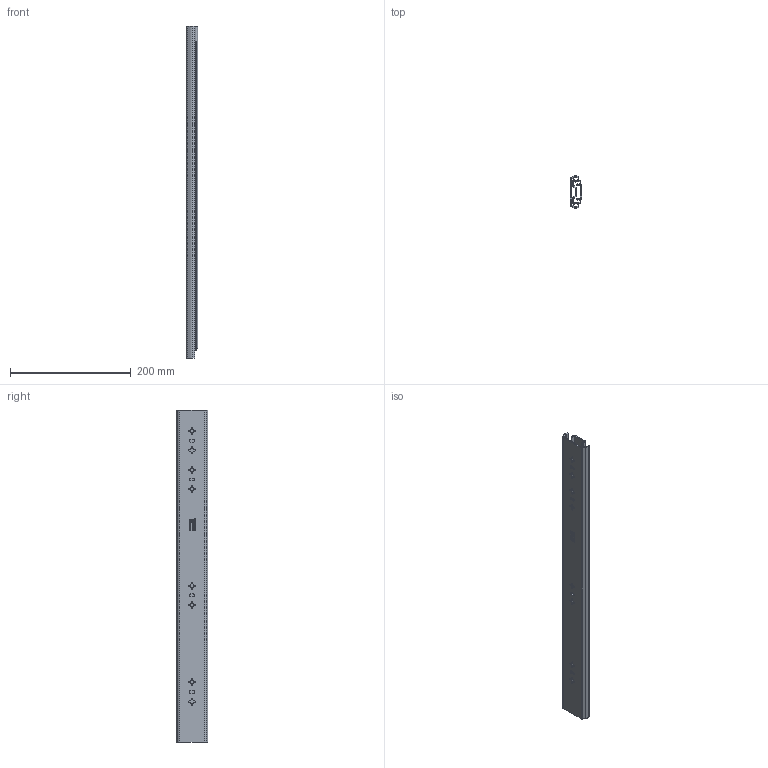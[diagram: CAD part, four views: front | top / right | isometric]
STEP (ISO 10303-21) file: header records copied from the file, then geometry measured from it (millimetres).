
FILE_DESCRIPTION (( 'STEP AP214' ), '1' );
FILE_NAME ('DSCHMD550MM-CLOSED.STEP', '2018-11-26T13:44:43', ( '' ), ( '' ), 'SwSTEP 2.0', 'SolidWorks 2017', '' );
FILE_SCHEMA (( 'AUTOMOTIVE_DESIGN' ));
Length unit declared in the file: millimetre
Products named in the file (4): DSCHMD-1_550; DSCHMD550MM-CLOSED; DSCHMD-3_550; DSCHMD-2_550
Assembly tree (3 placements, depth 2):
  DSCHMD550MM-CLOSED
    DSCHMD-3_550
    DSCHMD-2_550
    DSCHMD-1_550
Bounding box: 18.7 x 53 x 550 mm (x, y, z)
Volume: 182321.8 mm3; surface area: 191124.2 mm2
Topology: 3 solids, 3 shells, 1028 faces, 2868 edges, 1912 vertices
Faces by surface type: plane 557, bspline 237, cylinder 178, cone 56
Entity records: 34804 total; most frequent: CARTESIAN_POINT 9579, ORIENTED_EDGE 5736, DIRECTION 4288, EDGE_CURVE 2868, VERTEX_POINT 1912, VECTOR 1870, LINE 1870, AXIS2_PLACEMENT_3D 1209
